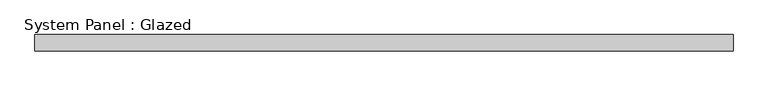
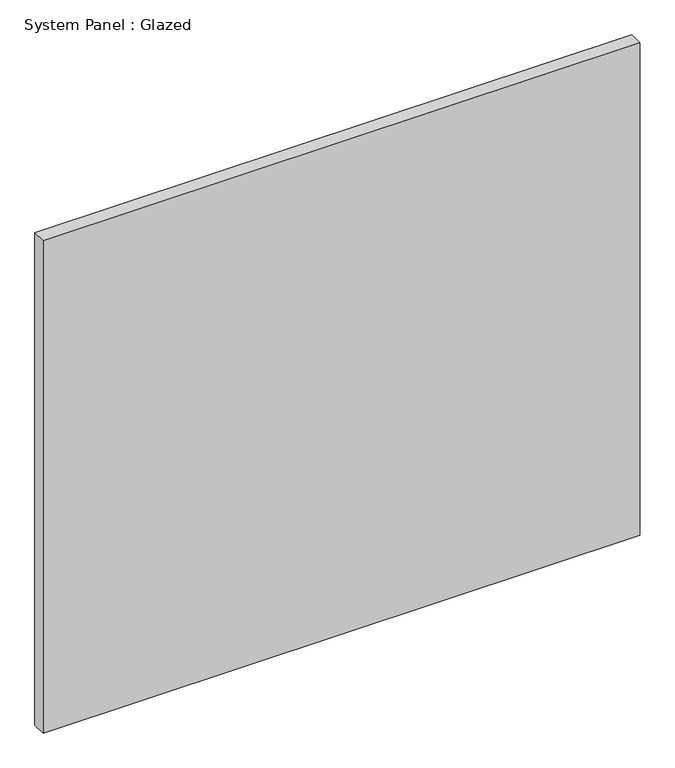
"""IFC4 building model written with IfcOpenShell, lengths in millimetres: plate geometry, System Panel : Glazed."""

from ifc_helpers import new_model, si_unit, origin, origin_with_axes, place, context, project, spatial, polyline, outline, extrude, source, transform, mapped, element, save


def system_panel_glazed_57b1a7ec(model_context):
    return source(origin(), model_context, "Body", "SweptSolid", [
        extrude(outline(polyline([(530.8333334, 24.5), (-530.8333334, 24.5), (-530.8333334, 49.5), (530.8333334, 49.5), (530.8333334, 24.5)])), origin_with_axes(), (0.0, 0.0, 1.0), 925.0),
    ])


if __name__ == "__main__":
    model = new_model("IFC4")
    model_context = context("Model", 3, world=origin())
    ifc_project = project(units=[si_unit("LENGTHUNIT", "METRE", prefix="MILLI")], contexts=[model_context])
    site = spatial("IfcSite", under=ifc_project)
    building = spatial("IfcBuilding", under=site)
    placement = place(None, origin())
    system_panel_glazed_shape = system_panel_glazed_57b1a7ec(model_context)
    element("IfcPlate", 1, ObjectType="System Panel : Glazed", at=placement, inside=building, context=model_context, shape_type="MappedRepresentation", body=[
        mapped(system_panel_glazed_shape, transform((0.0, 0.0, 0.0), x_axis=(1.0, 0.0, 0.0), y_axis=(0.0, 1.0, 0.0), z_axis=(0.0, 0.0, 1.0))),
    ])
    save(model, "model.ifc")
